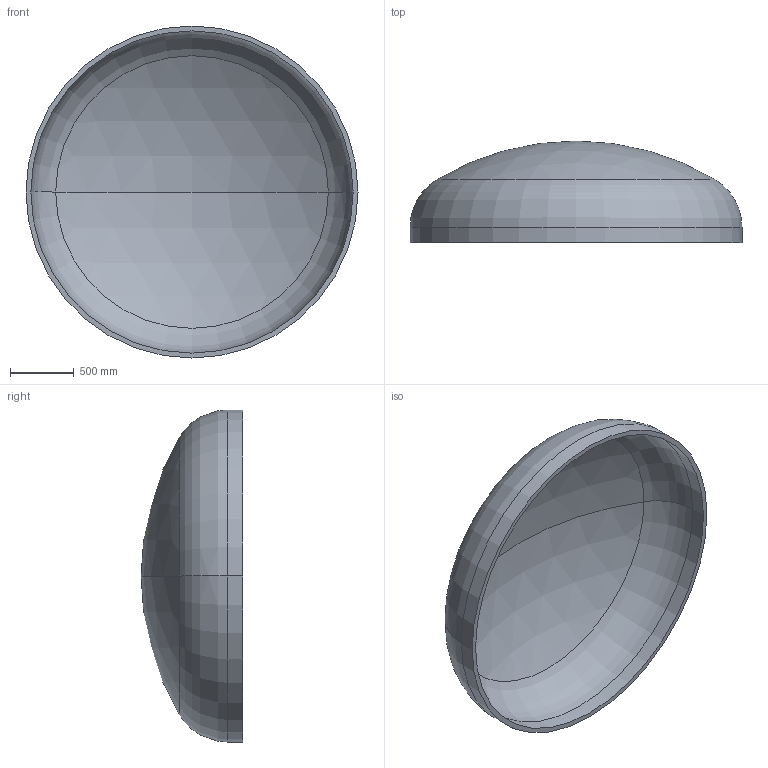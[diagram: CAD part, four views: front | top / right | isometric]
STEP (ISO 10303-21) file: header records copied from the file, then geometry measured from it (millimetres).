
FILE_DESCRIPTION (( 'STEP AP203' ), '1' );
FILE_NAME ('DIN 28013 Korbbogenform_-_Boden DIN 28013 - 2600 x 120 - I - s=38.step', '2016-07-01T16:09:15', ( '' ), ( '' ), 'SwSTEP 2.0', 'SolidWorks 2013', '' );
FILE_SCHEMA (( 'CONFIG_CONTROL_DESIGN' ));
Length unit declared in the file: millimetre
Products named in the file (1): DIN 28013 Korbbogenform_-_Boden DIN 28013 - 2600 x 120 - I - s=38
Bounding box: 2600 x 796 x 2600 mm (x, y, z)
Volume: 310730970.9 mm3; surface area: 16663133.2 mm2
Topology: 1 solids, 1 shells, 13 faces, 24 edges, 14 vertices
Faces by surface type: torus 4, cylinder 4, sphere 4, plane 1
Entity records: 407 total; most frequent: DIRECTION 72, CARTESIAN_POINT 52, ORIENTED_EDGE 48, AXIS2_PLACEMENT_3D 34, EDGE_CURVE 24, CIRCLE 20, EDGE_LOOP 14, VERTEX_POINT 14
